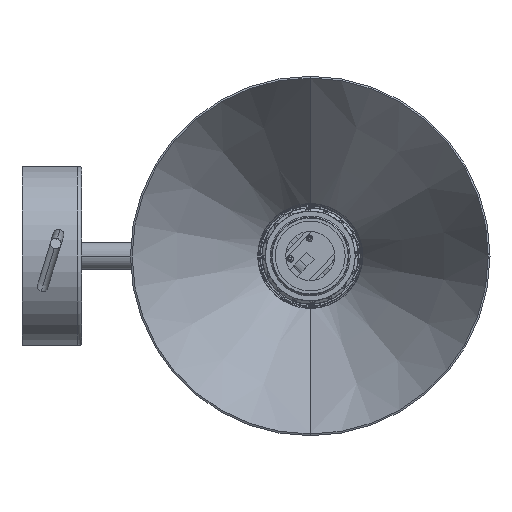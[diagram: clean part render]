
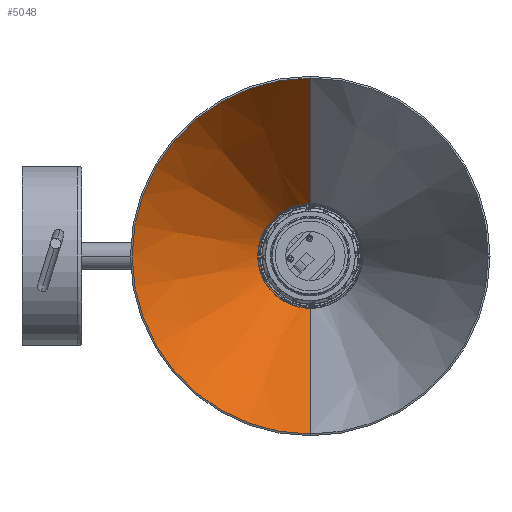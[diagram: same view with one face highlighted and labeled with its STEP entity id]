
A CAD part, front view. The second image highlights one B-rep face of the part: STEP entity #5048.
In plain terms, the highlighted conical face has half-angle 29.31 degrees and reference radius 25.415 mm.
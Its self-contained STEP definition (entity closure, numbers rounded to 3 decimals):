
#50 = DIRECTION ( 'NONE',  ( 0., 0., -1. ) ) ;
#237 = FACE_OUTER_BOUND ( 'NONE', #1536, .T. ) ;
#1090 = DIRECTION ( 'NONE',  ( 0., -0.872, 0.49 ) ) ;
#1536 = EDGE_LOOP ( 'NONE', ( #10056, #6633, #7754, #7990 ) ) ;
#1866 = VERTEX_POINT ( 'NONE', #5609 ) ;
#2080 = CARTESIAN_POINT ( 'NONE',  ( 0., 113., -25.415 ) ) ;
#2406 = VECTOR ( 'NONE', #9894, 1000. ) ;
#2430 = DIRECTION ( 'NONE',  ( 0., -1., 0. ) ) ;
#2914 = AXIS2_PLACEMENT_3D ( 'NONE', #5263, #9454, #50 ) ;
#2996 = EDGE_CURVE ( 'NONE', #8363, #7097, #9593, .T. ) ;
#2997 = AXIS2_PLACEMENT_3D ( 'NONE', #4425, #2430, #6627 ) ;
#3416 = DIRECTION ( 'NONE',  ( 0., -1., 0. ) ) ;
#4425 = CARTESIAN_POINT ( 'NONE',  ( 0., 113., 0. ) ) ;
#5048 = ADVANCED_FACE ( 'NONE', ( #237 ), #8931, .F. ) ;
#5263 = CARTESIAN_POINT ( 'NONE',  ( 0., 113., 0. ) ) ;
#5609 = CARTESIAN_POINT ( 'NONE',  ( 0., 113., 25.415 ) ) ;
#5701 = CARTESIAN_POINT ( 'NONE',  ( 0., 113., -25.415 ) ) ;
#6325 = LINE ( 'NONE', #10501, #7500 ) ;
#6627 = DIRECTION ( 'NONE',  ( 0., 0., -1. ) ) ;
#6633 = ORIENTED_EDGE ( 'NONE', *, *, #9201, .T. ) ;
#7097 = VERTEX_POINT ( 'NONE', #12361 ) ;
#7398 = EDGE_CURVE ( 'NONE', #8099, #7097, #11930, .T. ) ;
#7500 = VECTOR ( 'NONE', #1090, 1000. ) ;
#7622 = DIRECTION ( 'NONE',  ( 0., 0., -1. ) ) ;
#7754 = ORIENTED_EDGE ( 'NONE', *, *, #2996, .T. ) ;
#7990 = ORIENTED_EDGE ( 'NONE', *, *, #7398, .F. ) ;
#8099 = VERTEX_POINT ( 'NONE', #2080 ) ;
#8363 = VERTEX_POINT ( 'NONE', #13119 ) ;
#8837 = CIRCLE ( 'NONE', #2914, 25.415 ) ;
#8931 = CONICAL_SURFACE ( 'NONE', #2997, 25.415, 0.512 ) ;
#9201 = EDGE_CURVE ( 'NONE', #1866, #8363, #6325, .T. ) ;
#9454 = DIRECTION ( 'NONE',  ( 0., -1., 0. ) ) ;
#9593 = CIRCLE ( 'NONE', #10059, 89.128 ) ;
#9804 = EDGE_CURVE ( 'NONE', #1866, #8099, #8837, .T. ) ;
#9894 = DIRECTION ( 'NONE',  ( 0., -0.872, -0.49 ) ) ;
#10056 = ORIENTED_EDGE ( 'NONE', *, *, #9804, .F. ) ;
#10059 = AXIS2_PLACEMENT_3D ( 'NONE', #12801, #3416, #7622 ) ;
#10501 = CARTESIAN_POINT ( 'NONE',  ( 0., 113., 25.415 ) ) ;
#11930 = LINE ( 'NONE', #5701, #2406 ) ;
#12361 = CARTESIAN_POINT ( 'NONE',  ( 0., -0.49, -89.128 ) ) ;
#12801 = CARTESIAN_POINT ( 'NONE',  ( 0., -0.49, 0. ) ) ;
#13119 = CARTESIAN_POINT ( 'NONE',  ( 0., -0.49, 89.128 ) ) ;
